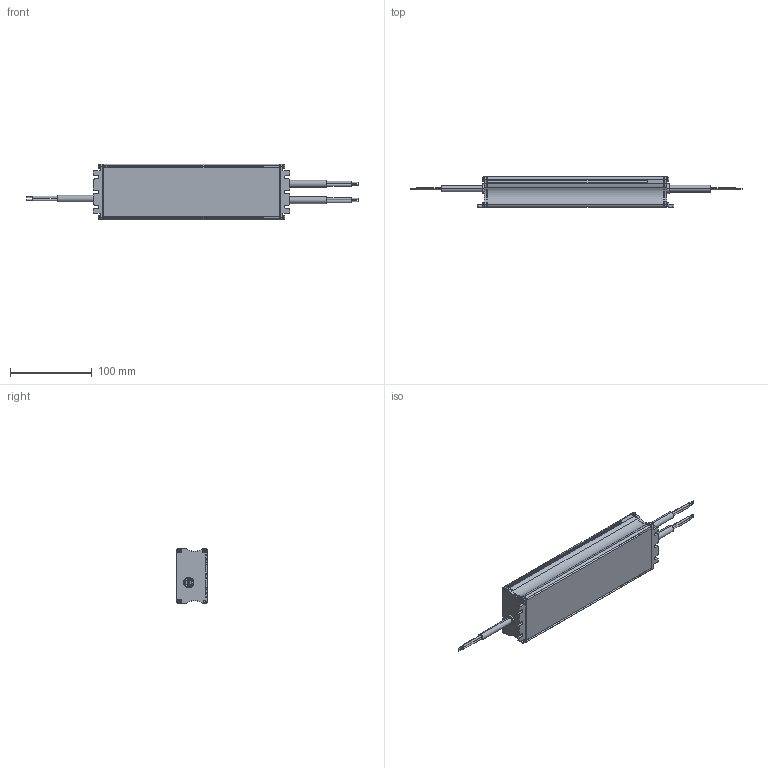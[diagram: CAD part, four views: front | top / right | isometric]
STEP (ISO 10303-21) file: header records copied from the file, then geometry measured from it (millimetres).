
FILE_DESCRIPTION((''),'2;1');
FILE_NAME('DRIVER_USCO150140GC_ASM','2016-08-29T',('TAYLOR.PH.CHAO'),(''),'PRO/ENGINEER BY PARAMETRIC TECHNOLOGY CORPORATION, 2009440','PRO/ENGINEER BY PARAMETRIC TECHNOLOGY CORPORATION, 2009440','');
FILE_SCHEMA(('CONFIG_CONTROL_DESIGN'));
Length unit declared in the file: millimetre
Products named in the file (10): HOUSING_USCO150140GC; SEALANT_OUT_USCO150140GC; BRACKET_OUT_USCO150140GC; SEALANT_IN_USCO150140GC; BRACKET_IN_USCO150140GC; PCB_USCO150140GC; SCREW_PAN-M3-10L-NI; CABLE_INPUT_CV_GEN2_100W; CABLE_OUTPUT_CV_IP67_100W; DRIVER_USCO150140GC_ASM
Assembly tree (15 placements, depth 2):
  DRIVER_USCO150140GC_ASM
    HOUSING_USCO150140GC
    SEALANT_OUT_USCO150140GC
    BRACKET_OUT_USCO150140GC
    SEALANT_IN_USCO150140GC
    BRACKET_IN_USCO150140GC
    PCB_USCO150140GC
    SCREW_PAN-M3-10L-NI  x6
    CABLE_INPUT_CV_GEN2_100W
    CABLE_OUTPUT_CV_IP67_100W  x2
Bounding box: 405 x 37 x 68 mm (x, y, z)
Volume: 189617.9 mm3; surface area: 149283.1 mm2
Topology: 15 solids, 21 shells, 1249 faces, 3364 edges, 2212 vertices
Faces by surface type: plane 802, cylinder 331, extrusion 53, cone 41, torus 22
Entity records: 34471 total; most frequent: CARTESIAN_POINT 8631, ORIENTED_EDGE 5476, DIRECTION 5018, EDGE_CURVE 2738, VECTOR 2166, LINE 2113, VERTEX_POINT 1806, AXIS2_PLACEMENT_3D 1426
